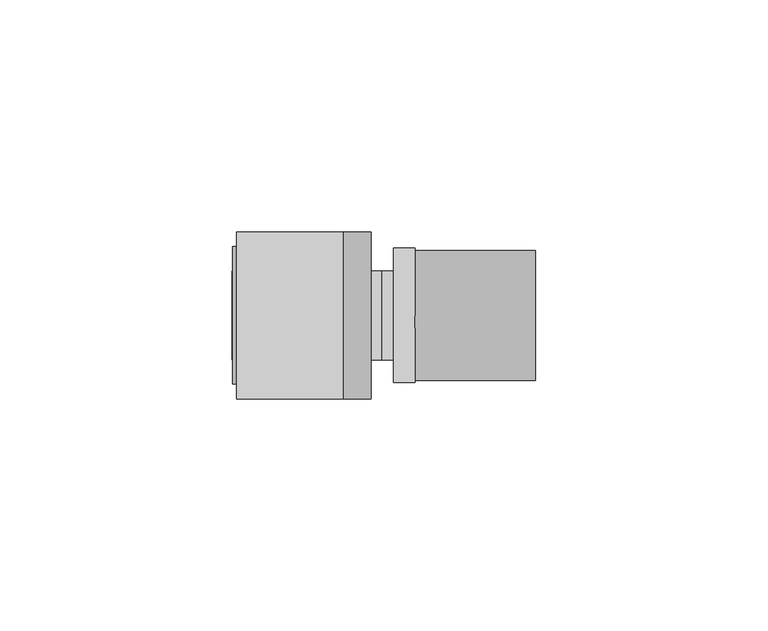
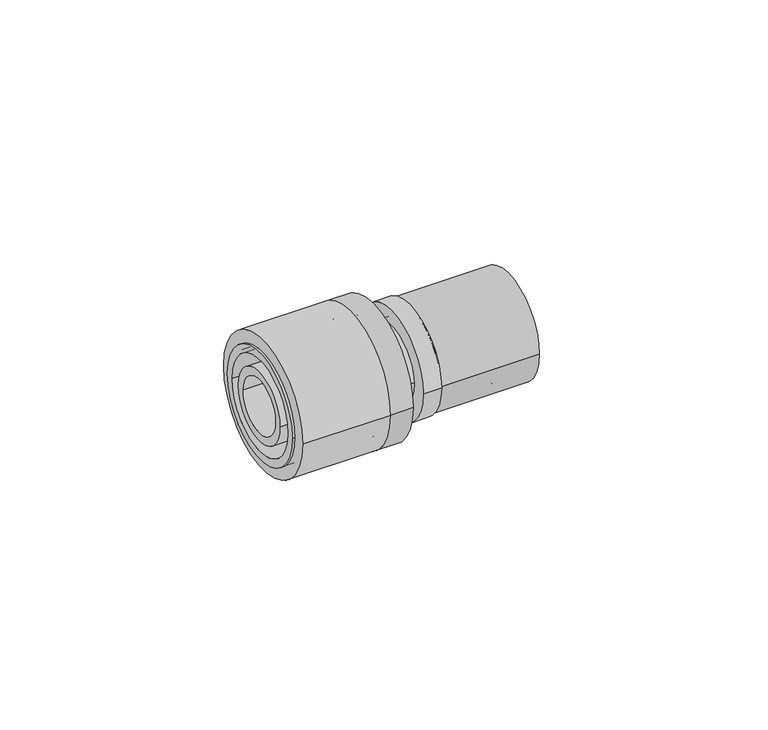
"""IFC4 building model written with IfcOpenShell, lengths in millimetres: pipe fitting geometry, FASTLOC_Coupling reduced EX+ : FSL C RE EX+ AT."""

from ifc_helpers import new_model, si_unit, point, frame, origin, origin_2d, place, context, project, spatial, polyline, circle_curve, trimmed, segment, composite_curve, outline, extrude, source, transform, mapped, element, save
from ifc_brep_helpers import plane_surface, cylinder_surface, revolved_surface, advanced_brep


def pipe_fitting_f9f4b2e9(model_context):
    return source(origin(), model_context, "Body", "SolidModel", [
        extrude(outline(composite_curve([segment(trimmed(circle_curve(origin_2d(), 14.0), [point((-14.0, 0.0))], [point((14.0, 0.0))], False, "CARTESIAN"), True, "CONTINUOUS"), segment(trimmed(circle_curve(origin_2d(), 14.0), [point((14.0, 0.0))], [point((-14.0, 0.0))], False, "CARTESIAN"), True, "CONTINUOUS")], self_intersect=False), holes=[composite_curve([segment(trimmed(circle_curve(origin_2d(), 10.7), [point((-10.7, 0.0))], [point((10.7, 0.0))], True, "CARTESIAN"), True, "CONTINUOUS"), segment(trimmed(circle_curve(origin_2d(), 10.7), [point((10.7, 0.0))], [point((-10.7, 0.0))], True, "CARTESIAN"), True, "CONTINUOUS")], self_intersect=False)]), frame((5.7, 0.0, 0.0), z_axis=(1.0, 0.0, 0.0), x_axis=(0.0, 1.0, 0.0)), (0.0, 0.0, 1.0), 26.0),
        advanced_brep(
        [(5.7, 14.5, 0.0), (5.7, -14.5, 0.0), (1.0, -14.5, 0.0), (1.0, 14.5, 0.0), (22.7, 11.85, 0.0), (22.7, -11.85, 0.0), (5.7, -11.85, 0.0), (5.7, 11.85, 0.0), (1.0, 10.15, 0.0), (1.0, -10.15, 0.0), (22.7, -10.15, 0.0), (22.7, 10.15, 0.0)],
        [
            (0, 1, circle_curve(frame((5.7, 0.0, 0.0), z_axis=(-1.0, 0.0, 0.0), x_axis=(0.0, -1.0, 0.0)), 14.5)),
            (1, 2),
            (2, 3, circle_curve(frame((1.0, 0.0, 0.0), z_axis=(1.0, 0.0, 0.0), x_axis=(0.0, -1.0, 0.0)), 14.5)),
            (3, 0),
            (4, 5, circle_curve(frame((22.7, 0.0, 0.0), z_axis=(-1.0, 0.0, 0.0), x_axis=(0.0, -1.0, 0.0)), 11.85)),
            (5, 6),
            (6, 7, circle_curve(frame((5.7, 0.0, 0.0), z_axis=(1.0, 0.0, 0.0), x_axis=(0.0, -1.0, 0.0)), 11.85)),
            (7, 4),
            (8, 9, circle_curve(frame((1.0, 0.0, 0.0), z_axis=(-1.0, 0.0, 0.0), x_axis=(0.0, -1.0, 0.0)), 10.15)),
            (9, 10),
            (10, 11, circle_curve(frame((22.7, 0.0, 0.0), z_axis=(1.0, 0.0, 0.0), x_axis=(0.0, -1.0, 0.0)), 10.15)),
            (11, 8),
            (1, 0, circle_curve(frame((5.7, 0.0, 0.0), z_axis=(-1.0, 0.0, 0.0), x_axis=(0.0, 1.0, 0.0)), 14.5)),
            (3, 2, circle_curve(frame((1.0, 0.0, 0.0), z_axis=(1.0, 0.0, 0.0), x_axis=(0.0, 1.0, 0.0)), 14.5)),
            (6, 7, circle_curve(frame((5.7, 0.0, 0.0), z_axis=(-1.0, 0.0, 0.0), x_axis=(0.0, 1.0, 0.0)), 11.85)),
            (5, 4, circle_curve(frame((22.7, 0.0, 0.0), z_axis=(-1.0, 0.0, 0.0), x_axis=(0.0, 1.0, 0.0)), 11.85)),
            (10, 11, circle_curve(frame((22.7, 0.0, 0.0), z_axis=(-1.0, 0.0, 0.0), x_axis=(0.0, 1.0, 0.0)), 10.15)),
            (9, 8, circle_curve(frame((1.0, 0.0, 0.0), z_axis=(-1.0, 0.0, 0.0), x_axis=(0.0, 1.0, 0.0)), 10.15)),
        ],
        [
            cylinder_surface(frame((1.0, 0.0, 0.0), z_axis=(1.0, 0.0, 0.0), x_axis=(0.0, -1.0, 0.0)), 14.5),
            cylinder_surface(frame((1.0, 0.0, 0.0), z_axis=(1.0, 0.0, 0.0), x_axis=(0.0, -1.0, 0.0)), 11.85),
            revolved_surface(polyline([(22.7, -10.15, 0.0), (1.0, -10.15, 0.0)]), (1.0, 0.0, 0.0), (1.0, 0.0, 0.0)),
            cylinder_surface(frame((1.0, 0.0, 0.0), z_axis=(1.0, 0.0, 0.0), x_axis=(0.0, 1.0, 0.0)), 14.5),
            plane_surface(frame((5.7, 0.0, 0.0), z_axis=(1.0, 0.0, 0.0), x_axis=(0.0, 1.0, 0.0))),
            cylinder_surface(frame((1.0, 0.0, 0.0), z_axis=(1.0, 0.0, 0.0), x_axis=(0.0, 1.0, 0.0)), 11.85),
            plane_surface(frame((22.7, 0.0, 0.0), z_axis=(1.0, 0.0, 0.0), x_axis=(0.0, 1.0, 0.0))),
            revolved_surface(polyline([(22.7, 10.15, 0.0), (1.0, 10.15, 0.0)]), (1.0, 0.0, 0.0), (1.0, 0.0, 0.0)),
            plane_surface(frame((1.0, 0.0, 0.0), z_axis=(-1.0, 0.0, 0.0), x_axis=(0.0, 1.0, 0.0))),
        ],
        [
            (0, [[1, 2, 3, 4]]),
            (1, [[5, 6, 7, 8]]),
            (2, [[9, 10, 11, 12]]),
            (3, [[13, -4, 14, -2]]),
            (4, [[-13, -1], [15, -7]]),
            (5, [[16, -8, -15, -6]]),
            (6, [[-16, -5], [17, -11]]),
            (7, [[18, -12, -17, -10]]),
            (8, [[-14, -3], [-18, -9]]),
        ],
    ),
        extrude(outline(composite_curve([segment(trimmed(circle_curve(origin_2d(), 18.0), [point((18.0, 0.0))], [point((-18.0, 0.0))], False, "CARTESIAN"), True, "CONTINUOUS"), segment(trimmed(circle_curve(origin_2d(), 18.0), [point((-18.0, 0.0))], [point((18.0, 0.0))], False, "CARTESIAN"), True, "CONTINUOUS")], self_intersect=False), holes=[composite_curve([segment(trimmed(circle_curve(origin_2d(), 13.5), [point((13.5, 0.0))], [point((-13.5, 0.0))], True, "CARTESIAN"), True, "CONTINUOUS"), segment(trimmed(circle_curve(origin_2d(), 13.5), [point((-13.5, 0.0))], [point((13.5, 0.0))], True, "CARTESIAN"), True, "CONTINUOUS")], self_intersect=False)]), frame((-32.8, 0.0, 0.0), z_axis=(1.0, 0.0, 0.0), x_axis=(0.0, 1.0, 0.0)), (0.0, 0.0, 1.0), 23.0),
        advanced_brep(
        [(-9.8, -18.0, 0.0), (-9.8, 18.0, 0.0), (-3.8, 18.0, 0.0), (-3.8, -18.0, 0.0), (-33.6, -14.85, 0.0), (-33.6, 14.85, 0.0), (-9.8, 14.85, 0.0), (-9.8, -14.85, 0.0), (-3.8, -12.65, 0.0), (-3.8, 12.65, 0.0), (-33.6, 12.65, 0.0), (-33.6, -12.65, 0.0)],
        [
            (0, 1, circle_curve(frame((-9.8, 0.0, 0.0), z_axis=(1.0, 0.0, 0.0), x_axis=(0.0, 1.0, 0.0)), 18.0)),
            (1, 2),
            (2, 3, circle_curve(frame((-3.8, 0.0, 0.0), z_axis=(-1.0, 0.0, 0.0), x_axis=(0.0, 1.0, 0.0)), 18.0)),
            (3, 0),
            (4, 5, circle_curve(frame((-33.6, 0.0, 0.0), z_axis=(1.0, 0.0, 0.0), x_axis=(0.0, 1.0, 0.0)), 14.85)),
            (5, 6),
            (6, 7, circle_curve(frame((-9.8, 0.0, 0.0), z_axis=(-1.0, 0.0, 0.0), x_axis=(0.0, 1.0, 0.0)), 14.85)),
            (7, 4),
            (8, 9, circle_curve(frame((-3.8, 0.0, 0.0), z_axis=(1.0, 0.0, 0.0), x_axis=(0.0, 1.0, 0.0)), 12.65)),
            (9, 10),
            (10, 11, circle_curve(frame((-33.6, 0.0, 0.0), z_axis=(-1.0, 0.0, 0.0), x_axis=(0.0, 1.0, 0.0)), 12.65)),
            (11, 8),
            (1, 0, circle_curve(frame((-9.8, 0.0, 0.0), z_axis=(1.0, 0.0, 0.0), x_axis=(0.0, -1.0, 0.0)), 18.0)),
            (3, 2, circle_curve(frame((-3.8, 0.0, 0.0), z_axis=(-1.0, 0.0, 0.0), x_axis=(0.0, -1.0, 0.0)), 18.0)),
            (6, 7, circle_curve(frame((-9.8, 0.0, 0.0), z_axis=(1.0, 0.0, 0.0), x_axis=(0.0, -1.0, 0.0)), 14.85)),
            (5, 4, circle_curve(frame((-33.6, 0.0, 0.0), z_axis=(1.0, 0.0, 0.0), x_axis=(0.0, -1.0, 0.0)), 14.85)),
            (10, 11, circle_curve(frame((-33.6, 0.0, 0.0), z_axis=(1.0, 0.0, 0.0), x_axis=(0.0, -1.0, 0.0)), 12.65)),
            (9, 8, circle_curve(frame((-3.8, 0.0, 0.0), z_axis=(1.0, 0.0, 0.0), x_axis=(0.0, -1.0, 0.0)), 12.65)),
        ],
        [
            cylinder_surface(frame((-3.8, 0.0, 0.0), z_axis=(-1.0, 0.0, 0.0), x_axis=(0.0, 1.0, 0.0)), 18.0),
            cylinder_surface(frame((-3.8, 0.0, 0.0), z_axis=(-1.0, 0.0, 0.0), x_axis=(0.0, 1.0, 0.0)), 14.85),
            revolved_surface(polyline([(-33.6, 12.65, 0.0), (-3.8, 12.65, 0.0)]), (-3.8, 0.0, 0.0), (-1.0, 0.0, 0.0)),
            cylinder_surface(frame((-3.8, 0.0, 0.0), z_axis=(-1.0, 0.0, 0.0), x_axis=(0.0, -1.0, 0.0)), 18.0),
            plane_surface(frame((-9.8, 0.0, 0.0), z_axis=(-1.0, 0.0, 0.0), x_axis=(0.0, -1.0, 0.0))),
            cylinder_surface(frame((-3.8, 0.0, 0.0), z_axis=(-1.0, 0.0, 0.0), x_axis=(0.0, -1.0, 0.0)), 14.85),
            plane_surface(frame((-33.6, 0.0, 0.0), z_axis=(-1.0, 0.0, 0.0), x_axis=(0.0, -1.0, 0.0))),
            revolved_surface(polyline([(-33.6, -12.65, 0.0), (-3.8, -12.65, 0.0)]), (-3.8, 0.0, 0.0), (-1.0, 0.0, 0.0)),
            plane_surface(frame((-3.8, 0.0, 0.0), z_axis=(1.0, 0.0, 0.0), x_axis=(0.0, -1.0, 0.0))),
        ],
        [
            (0, [[1, 2, 3, 4]]),
            (1, [[5, 6, 7, 8]]),
            (2, [[9, 10, 11, 12]]),
            (3, [[13, -4, 14, -2]]),
            (4, [[-13, -1], [15, -7]]),
            (5, [[16, -8, -15, -6]]),
            (6, [[-16, -5], [17, -11]]),
            (7, [[18, -12, -17, -10]]),
            (8, [[-14, -3], [-18, -9]]),
        ],
    ),
        advanced_brep(
        [(-1.5, 9.6, 0.0), (-1.5, -9.6, 0.0), (-7.0, -9.6, 0.0), (-7.0, 9.6, 0.0), (-7.0, 11.1, 0.0), (-7.0, -11.1, 0.0), (-9.8, -11.1, 0.0), (-9.8, 11.1, 0.0), (-9.8, 9.6, 0.0), (-9.8, -9.6, 0.0), (-33.8, -9.6, 0.0), (-33.8, 9.6, 0.0), (-33.8, 7.35, 0.0), (-33.8, -7.35, 0.0), (-1.5, -7.35, 0.0), (-1.5, 7.35, 0.0), (2.0, 9.6, 0.0), (2.0, -9.6, 0.0), (3.0, 7.55, 0.0), (3.0, -7.55, 0.0), (2.0, -7.55, 0.0), (2.0, 7.55, 0.0), (5.7, 8.6, 0.0), (5.7, -8.6, 0.0), (3.0, -8.6, 0.0), (3.0, 8.6, 0.0), (23.1, 7.5229189, 0.0), (23.1, -7.5229189, 0.0), (5.7, -7.5229189, 0.0), (5.7, 7.5229189, 0.0), (-1.5, 5.55, 0.0), (-1.5, -5.55, 0.0), (23.1, -5.55, 0.0), (23.1, 5.55, 0.0)],
        [
            (0, 1, circle_curve(frame((-1.5, 0.0, 0.0), z_axis=(-1.0, 0.0, 0.0), x_axis=(0.0, -1.0, 0.0)), 9.6)),
            (1, 2),
            (2, 3, circle_curve(frame((-7.0, 0.0, 0.0), z_axis=(1.0, 0.0, 0.0), x_axis=(0.0, -1.0, 0.0)), 9.6)),
            (3, 0),
            (4, 5, circle_curve(frame((-7.0, 0.0, 0.0), z_axis=(-1.0, 0.0, 0.0), x_axis=(0.0, -1.0, 0.0)), 11.1)),
            (5, 6),
            (6, 7, circle_curve(frame((-9.8, 0.0, 0.0), z_axis=(1.0, 0.0, 0.0), x_axis=(0.0, -1.0, 0.0)), 11.1)),
            (7, 4),
            (8, 9, circle_curve(frame((-9.8, 0.0, 0.0), z_axis=(-1.0, 0.0, 0.0), x_axis=(0.0, -1.0, 0.0)), 9.6)),
            (9, 10),
            (10, 11, circle_curve(frame((-33.8, 0.0, 0.0), z_axis=(1.0, 0.0, 0.0), x_axis=(0.0, -1.0, 0.0)), 9.6)),
            (11, 8),
            (12, 13, circle_curve(frame((-33.8, 0.0, 0.0), z_axis=(-1.0, 0.0, 0.0), x_axis=(0.0, -1.0, 0.0)), 7.35)),
            (13, 14),
            (14, 15, circle_curve(frame((-1.5, 0.0, 0.0), z_axis=(1.0, 0.0, 0.0), x_axis=(0.0, -1.0, 0.0)), 7.35)),
            (15, 12),
            (1, 0, circle_curve(frame((-1.5, 0.0, 0.0), z_axis=(-1.0, 0.0, 0.0), x_axis=(0.0, 1.0, 0.0)), 9.6)),
            (3, 2, circle_curve(frame((-7.0, 0.0, 0.0), z_axis=(1.0, 0.0, 0.0), x_axis=(0.0, 1.0, 0.0)), 9.6)),
            (4, 5, circle_curve(frame((-7.0, 0.0, 0.0), z_axis=(1.0, 0.0, 0.0), x_axis=(0.0, 1.0, 0.0)), 11.1)),
            (7, 6, circle_curve(frame((-9.8, 0.0, 0.0), z_axis=(1.0, 0.0, 0.0), x_axis=(0.0, 1.0, 0.0)), 11.1)),
            (8, 9, circle_curve(frame((-9.8, 0.0, 0.0), z_axis=(1.0, 0.0, 0.0), x_axis=(0.0, 1.0, 0.0)), 9.6)),
            (11, 10, circle_curve(frame((-33.8, 0.0, 0.0), z_axis=(1.0, 0.0, 0.0), x_axis=(0.0, 1.0, 0.0)), 9.6)),
            (12, 13, circle_curve(frame((-33.8, 0.0, 0.0), z_axis=(1.0, 0.0, 0.0), x_axis=(0.0, 1.0, 0.0)), 7.35)),
            (15, 14, circle_curve(frame((-1.5, 0.0, 0.0), z_axis=(1.0, 0.0, 0.0), x_axis=(0.0, 1.0, 0.0)), 7.35)),
            (16, 17, circle_curve(frame((2.0, 0.0, 0.0), z_axis=(-1.0, 0.0, 0.0), x_axis=(0.0, -1.0, 0.0)), 9.6)),
            (17, 1),
            (0, 16),
            (18, 19, circle_curve(frame((3.0, 0.0, 0.0), z_axis=(-1.0, 0.0, 0.0), x_axis=(0.0, -1.0, 0.0)), 7.55)),
            (19, 20),
            (20, 21, circle_curve(frame((2.0, 0.0, 0.0), z_axis=(1.0, 0.0, 0.0), x_axis=(0.0, -1.0, 0.0)), 7.55)),
            (21, 18),
            (22, 23, circle_curve(frame((5.7, 0.0, 0.0), z_axis=(-1.0, 0.0, 0.0), x_axis=(0.0, -1.0, 0.0)), 8.6)),
            (23, 24),
            (24, 25, circle_curve(frame((3.0, 0.0, 0.0), z_axis=(1.0, 0.0, 0.0), x_axis=(0.0, -1.0, 0.0)), 8.6)),
            (25, 22),
            (26, 27, circle_curve(frame((23.1, 0.0, 0.0), z_axis=(-1.0, 0.0, 0.0), x_axis=(0.0, -1.0, 0.0)), 7.5229189)),
            (27, 28),
            (28, 29, circle_curve(frame((5.7, 0.0, 0.0), z_axis=(1.0, 0.0, 0.0), x_axis=(0.0, -1.0, 0.0)), 7.5229189)),
            (29, 26),
            (30, 31, circle_curve(frame((-1.5, 0.0, 0.0), z_axis=(-1.0, 0.0, 0.0), x_axis=(0.0, -1.0, 0.0)), 5.55)),
            (31, 32),
            (32, 33, circle_curve(frame((23.1, 0.0, 0.0), z_axis=(1.0, 0.0, 0.0), x_axis=(0.0, -1.0, 0.0)), 5.55)),
            (33, 30),
            (17, 16, circle_curve(frame((2.0, 0.0, 0.0), z_axis=(-1.0, 0.0, 0.0), x_axis=(0.0, 1.0, 0.0)), 9.6)),
            (20, 21, circle_curve(frame((2.0, 0.0, 0.0), z_axis=(-1.0, 0.0, 0.0), x_axis=(0.0, 1.0, 0.0)), 7.55)),
            (19, 18, circle_curve(frame((3.0, 0.0, 0.0), z_axis=(-1.0, 0.0, 0.0), x_axis=(0.0, 1.0, 0.0)), 7.55)),
            (24, 25, circle_curve(frame((3.0, 0.0, 0.0), z_axis=(-1.0, 0.0, 0.0), x_axis=(0.0, 1.0, 0.0)), 8.6)),
            (23, 22, circle_curve(frame((5.7, 0.0, 0.0), z_axis=(-1.0, 0.0, 0.0), x_axis=(0.0, 1.0, 0.0)), 8.6)),
            (28, 29, circle_curve(frame((5.7, 0.0, 0.0), z_axis=(-1.0, 0.0, 0.0), x_axis=(0.0, 1.0, 0.0)), 7.5229189)),
            (27, 26, circle_curve(frame((23.1, 0.0, 0.0), z_axis=(-1.0, 0.0, 0.0), x_axis=(0.0, 1.0, 0.0)), 7.5229189)),
            (32, 33, circle_curve(frame((23.1, 0.0, 0.0), z_axis=(-1.0, 0.0, 0.0), x_axis=(0.0, 1.0, 0.0)), 5.55)),
            (31, 30, circle_curve(frame((-1.5, 0.0, 0.0), z_axis=(-1.0, 0.0, 0.0), x_axis=(0.0, 1.0, 0.0)), 5.55)),
        ],
        [
            cylinder_surface(frame((0.0, 0.0, 0.0), z_axis=(1.0, 0.0, 0.0), x_axis=(0.0, -1.0, 0.0)), 9.6),
            cylinder_surface(frame((0.0, 0.0, 0.0), z_axis=(1.0, 0.0, 0.0), x_axis=(0.0, -1.0, 0.0)), 11.1),
            revolved_surface(polyline([(-1.5, -7.35, 0.0), (-33.8, -7.35, 0.0)]), (0.0, 0.0, 0.0), (1.0, 0.0, 0.0)),
            cylinder_surface(frame((0.0, 0.0, 0.0), z_axis=(1.0, 0.0, 0.0), x_axis=(0.0, 1.0, 0.0)), 9.6),
            plane_surface(frame((-7.0, 0.0, 0.0), z_axis=(1.0, 0.0, 0.0), x_axis=(0.0, 1.0, 0.0))),
            cylinder_surface(frame((0.0, 0.0, 0.0), z_axis=(1.0, 0.0, 0.0), x_axis=(0.0, 1.0, 0.0)), 11.1),
            plane_surface(frame((-9.8, 0.0, 0.0), z_axis=(-1.0, 0.0, 0.0), x_axis=(0.0, 1.0, 0.0))),
            plane_surface(frame((-33.8, 0.0, 0.0), z_axis=(-1.0, 0.0, 0.0), x_axis=(0.0, 1.0, 0.0))),
            revolved_surface(polyline([(-1.5, 7.35, 0.0), (-33.8, 7.35, 0.0)]), (0.0, 0.0, 0.0), (1.0, 0.0, 0.0)),
            cylinder_surface(frame((0.0, 0.0, 0.0), z_axis=(1.0, 0.0, 0.0), x_axis=(0.0, -1.0, 0.0)), 7.55),
            cylinder_surface(frame((0.0, 0.0, 0.0), z_axis=(1.0, 0.0, 0.0), x_axis=(0.0, -1.0, 0.0)), 8.6),
            cylinder_surface(frame((0.0, 0.0, 0.0), z_axis=(1.0, 0.0, 0.0), x_axis=(0.0, -1.0, 0.0)), 7.5229189),
            revolved_surface(polyline([(23.1, -5.55, 0.0), (-1.5, -5.55, 0.0)]), (0.0, 0.0, 0.0), (1.0, 0.0, 0.0)),
            plane_surface(frame((2.0, 0.0, 0.0), z_axis=(1.0, 0.0, 0.0), x_axis=(0.0, 1.0, 0.0))),
            cylinder_surface(frame((0.0, 0.0, 0.0), z_axis=(1.0, 0.0, 0.0), x_axis=(0.0, 1.0, 0.0)), 7.55),
            plane_surface(frame((3.0, 0.0, 0.0), z_axis=(-1.0, 0.0, 0.0), x_axis=(0.0, 1.0, 0.0))),
            cylinder_surface(frame((0.0, 0.0, 0.0), z_axis=(1.0, 0.0, 0.0), x_axis=(0.0, 1.0, 0.0)), 8.6),
            plane_surface(frame((5.7, 0.0, 0.0), z_axis=(1.0, 0.0, 0.0), x_axis=(0.0, 1.0, 0.0))),
            cylinder_surface(frame((0.0, 0.0, 0.0), z_axis=(1.0, 0.0, 0.0), x_axis=(0.0, 1.0, 0.0)), 7.5229189),
            plane_surface(frame((23.1, 0.0, 0.0), z_axis=(1.0, 0.0, 0.0), x_axis=(0.0, 1.0, 0.0))),
            revolved_surface(polyline([(23.1, 5.55, 0.0), (-1.5, 5.55, 0.0)]), (0.0, 0.0, 0.0), (1.0, 0.0, 0.0)),
            plane_surface(frame((-1.5, 0.0, 0.0), z_axis=(-1.0, 0.0, 0.0), x_axis=(0.0, 1.0, 0.0))),
        ],
        [
            (0, [[1, 2, 3, 4]]),
            (1, [[5, 6, 7, 8]]),
            (0, [[9, 10, 11, 12]]),
            (2, [[13, 14, 15, 16]]),
            (3, [[17, -4, 18, -2]]),
            (4, [[19, -5], [-18, -3]]),
            (5, [[-19, -8, 20, -6]]),
            (6, [[-20, -7], [21, -9]]),
            (3, [[-21, -12, 22, -10]]),
            (7, [[-22, -11], [23, -13]]),
            (8, [[-23, -16, 24, -14]]),
            (0, [[25, 26, -1, 27]]),
            (9, [[28, 29, 30, 31]]),
            (10, [[32, 33, 34, 35]]),
            (11, [[36, 37, 38, 39]]),
            (12, [[40, 41, 42, 43]]),
            (3, [[44, -27, -17, -26]]),
            (13, [[-44, -25], [45, -30]]),
            (14, [[46, -31, -45, -29]]),
            (15, [[47, -34], [-46, -28]]),
            (16, [[48, -35, -47, -33]]),
            (17, [[-48, -32], [49, -38]]),
            (18, [[50, -39, -49, -37]]),
            (19, [[-50, -36], [51, -42]]),
            (20, [[52, -43, -51, -41]]),
            (21, [[-24, -15], [-52, -40]]),
        ],
    ),
    ])


if __name__ == "__main__":
    model = new_model("IFC4")
    model_context = context("Model", 3, world=origin())
    ifc_project = project(units=[si_unit("LENGTHUNIT", "METRE", prefix="MILLI")], contexts=[model_context])
    site = spatial("IfcSite", under=ifc_project)
    building = spatial("IfcBuilding", under=site)
    placement = place(None, origin())
    pipe_fitting_shape = pipe_fitting_f9f4b2e9(model_context)
    element("IfcPipeFitting", 1, ObjectType="FASTLOC_Coupling reduced EX+ : FSL C RE EX+ AT", at=placement, inside=building, context=model_context, shape_type="MappedRepresentation", body=[
        mapped(pipe_fitting_shape, transform((0.0, 0.0, 0.0), x_axis=(1.0, 0.0, 0.0), y_axis=(0.0, 1.0, 0.0), z_axis=(0.0, 0.0, 1.0))),
    ])
    save(model, "model.ifc")
